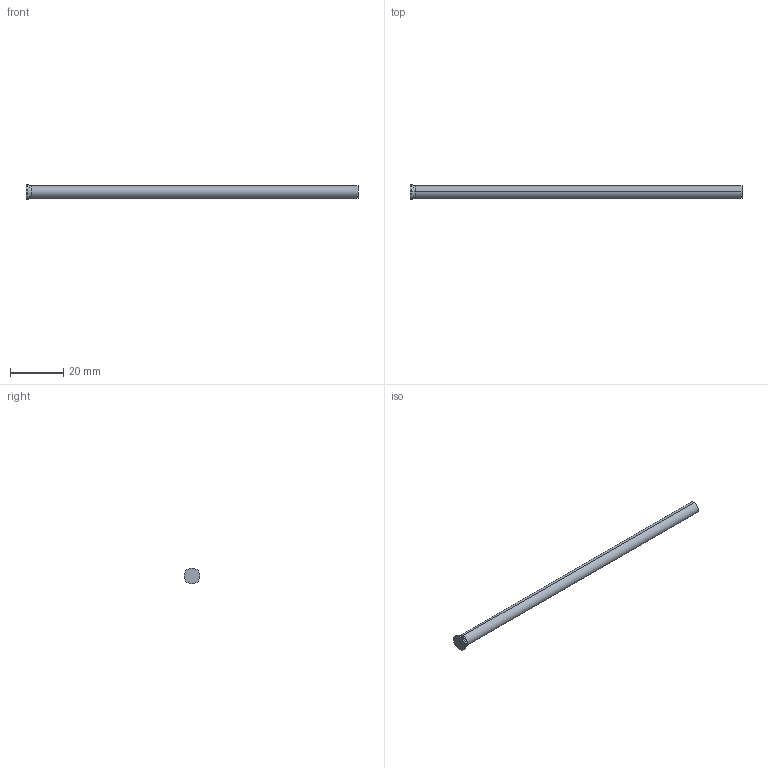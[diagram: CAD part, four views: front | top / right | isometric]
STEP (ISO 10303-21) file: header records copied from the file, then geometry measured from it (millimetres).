
FILE_DESCRIPTION (( 'STEP AP214' ), '1' );
FILE_NAME ('D-4,6x125.STEP', '2020-06-08T11:26:03', ( 'August' ), ( '' ), 'SwSTEP 2.0', 'SolidWorks 2018', '' );
FILE_SCHEMA (( 'AUTOMOTIVE_DESIGN' ));
Length unit declared in the file: millimetre
Products named in the file (1): D-4,6x125
Bounding box: 125 x 6 x 6 mm (x, y, z)
Volume: 2090 mm3; surface area: 1859.1 mm2
Topology: 1 solids, 1 shells, 10 faces, 18 edges, 10 vertices
Faces by surface type: cylinder 4, torus 2, cone 2, plane 2
Entity records: 280 total; most frequent: DIRECTION 52, CARTESIAN_POINT 39, ORIENTED_EDGE 36, AXIS2_PLACEMENT_3D 23, EDGE_CURVE 18, CIRCLE 12, VERTEX_POINT 10, FACE_OUTER_BOUND 10
